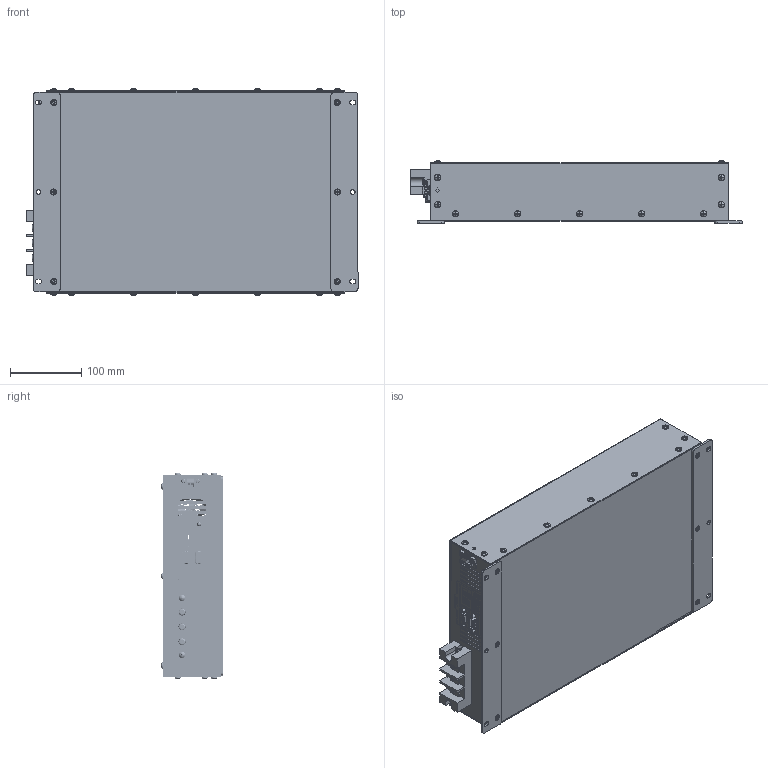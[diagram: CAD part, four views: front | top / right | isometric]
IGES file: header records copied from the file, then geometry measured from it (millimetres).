
Global section: file name: VW2COM; native system: Autodesk Inventor 2021; preprocessor: unknown; author: eunsol jang; date: 20220616.163240; units: inch
Bounding box: 467 x 87.92 x 290.84 mm (x, y, z)
Volume: 666805.2 mm3; surface area: 828483.8 mm2
Topology: 13 solids, 13 shells, 3579 faces, 10867 edges, 7678 vertices
Faces by surface type: bspline 3579
